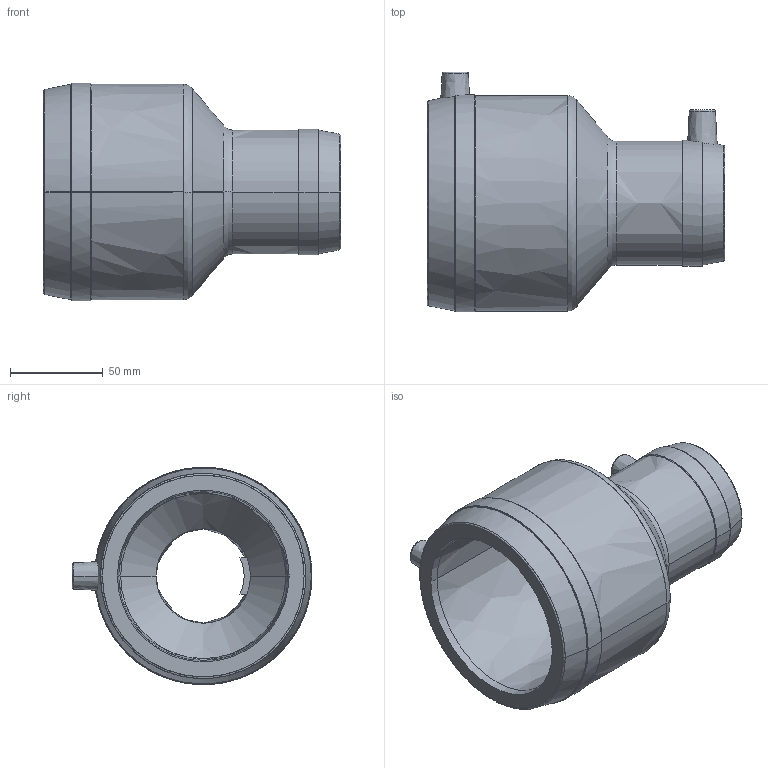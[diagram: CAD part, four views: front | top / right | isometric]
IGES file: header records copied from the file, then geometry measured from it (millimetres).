
Start section:  PTC IGES file: mr_d090-050_01.igs
Global section: file name: mr_d090-050_01.igs; native system: Pro/ENGINEER by Parametric Technology Corporation; preprocessor: 2011490; author: mtunjic; organization: Unknown; date: 20130816.145830; units: millimetre
Bounding box: 160 x 129.1 x 117 mm (x, y, z)
Surface area: 94248 mm2 (no closed solid volume)
Topology: 0 solids, 0 shells, 186 faces, 934 edges, 934 vertices
Faces by surface type: bspline 186
